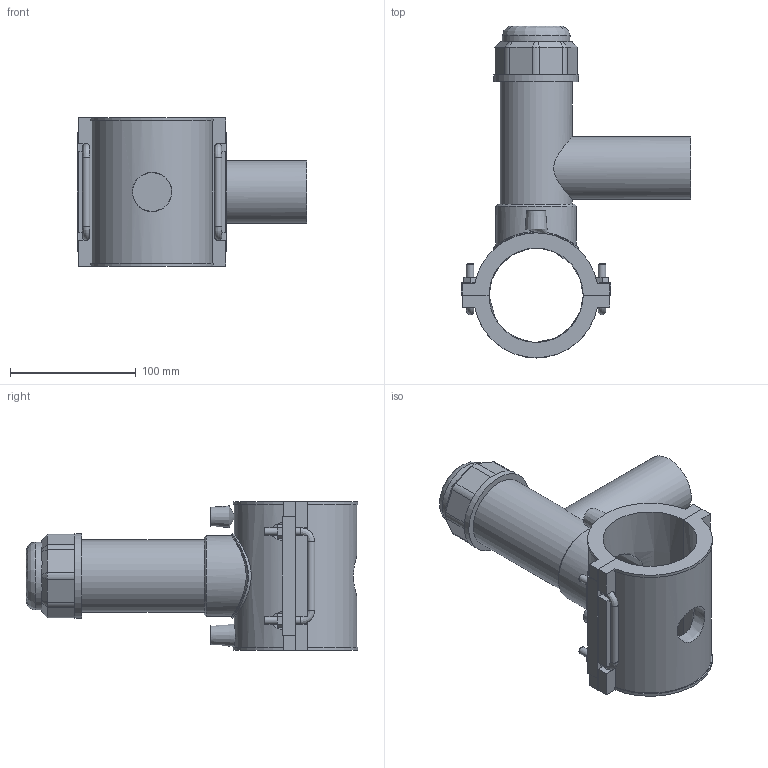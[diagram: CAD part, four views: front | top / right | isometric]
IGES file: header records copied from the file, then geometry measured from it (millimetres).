
Global section: file name: 496304075050.ipt; native system: Autodesk Inventor 2015; preprocessor: unknown; author: KIM; date: 20190124.130719; units: millimetre
Bounding box: 182.5 x 264.23 x 118 mm (x, y, z)
Volume: 705809.1 mm3; surface area: 173472.2 mm2
Topology: 2 solids, 2 shells, 192 faces, 495 edges, 323 vertices
Faces by surface type: plane 118, cylinder 34, revolution 20, cone 15, bspline 5
Full cylindrical faces by diameter (mm): 4 x2, 6 x10, 50 x1, 54 x1, 57.375 x1, 64.125 x1, 67.5 x2
